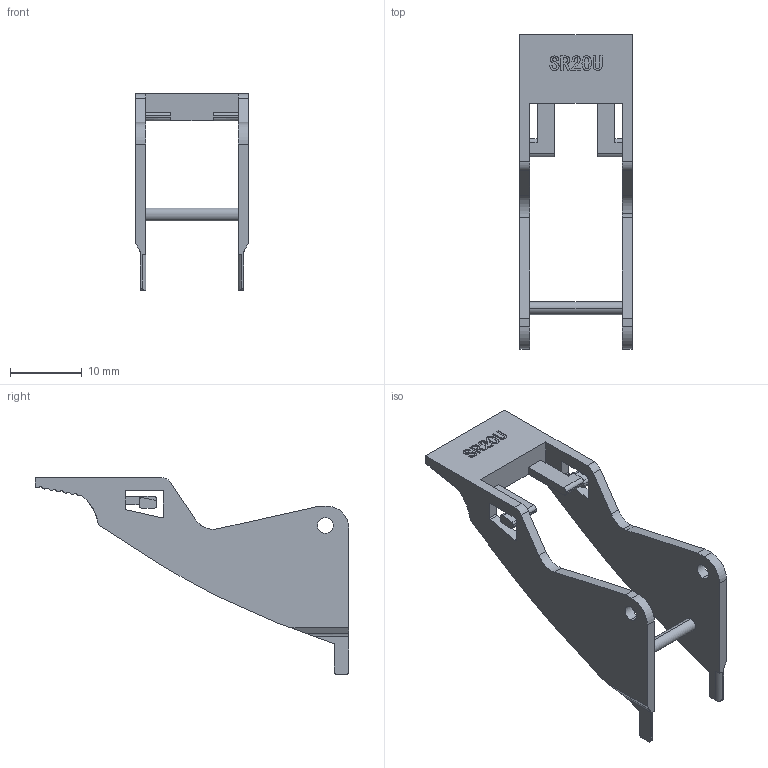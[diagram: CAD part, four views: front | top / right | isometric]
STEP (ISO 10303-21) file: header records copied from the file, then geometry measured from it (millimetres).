
FILE_DESCRIPTION (( 'STEP AP214' ), '1' );
FILE_NAME ('SR20U °â¿Û.STEP', '2019-08-31T00:50:29', ( 'shenler' ), ( 'Microsoft' ), 'SwSTEP 2.0', 'SolidWorks 2018', '' );
FILE_SCHEMA (( 'AUTOMOTIVE_DESIGN' ));
Length unit declared in the file: millimetre
Products named in the file (1): SR20U 售諶
Bounding box: 15.7 x 43.9 x 27.49 mm (x, y, z)
Volume: 1583 mm3; surface area: 2735.5 mm2
Topology: 1 solids, 1 shells, 219 faces, 626 edges, 416 vertices
Faces by surface type: plane 98, cylinder 83, bspline 38
Entity records: 9408 total; most frequent: CARTESIAN_POINT 3688, ORIENTED_EDGE 1252, DIRECTION 1082, EDGE_CURVE 626, VERTEX_POINT 416, VECTOR 374, LINE 374, AXIS2_PLACEMENT_3D 354
